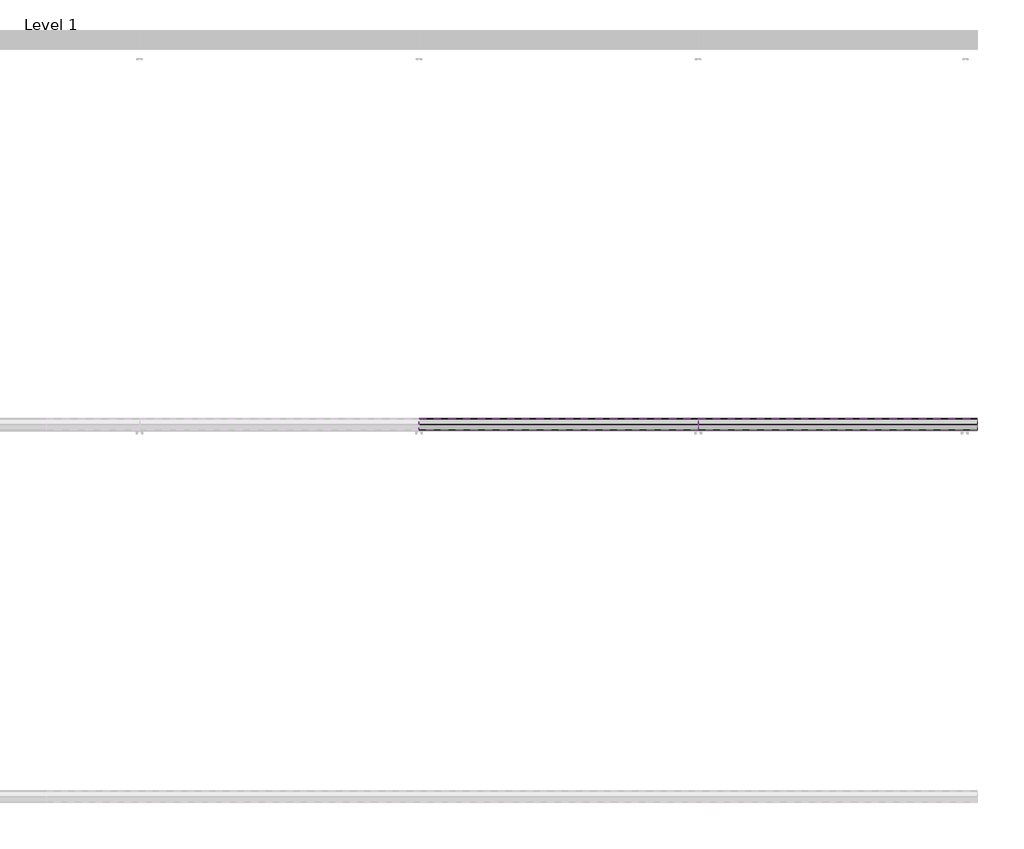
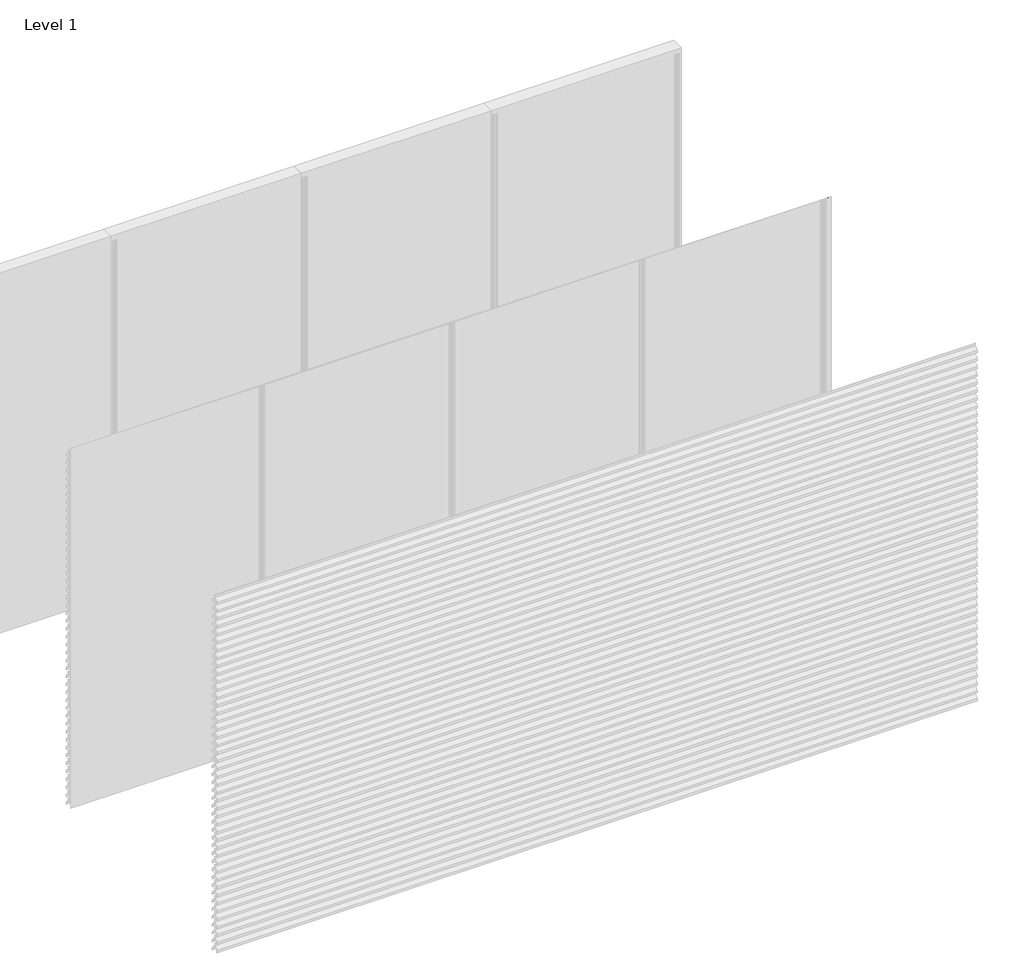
# One storey, part 31 of 35: 70 proxies.
"""IFC4 building model written with IfcOpenShell, lengths in millimetres."""

from ifc_helpers import new_model, si_unit, frame, origin, place, context, project, spatial, polyline, outline, extrude, element, save

model = new_model("IFC4")

# Units and contexts
model_context = context("Model", 3, world=origin())
ifc_project = project(units=[si_unit("LENGTHUNIT", "METRE", prefix="MILLI")], contexts=[model_context])

# Site, building, storey
site = spatial("IfcSite", under=ifc_project)
building = spatial("IfcBuilding", under=site)
storey = spatial("IfcBuildingStorey", under=building, Name="Level 1", Elevation=0.0)

# Proxies
placement = place(None, origin())
element("IfcBuildingElementProxy", 1, Name="Wall Sweeps", at=placement, inside=storey, context=model_context, shape_type="SweptSolid", body=[
    extrude(outline(polyline([(-5936.0, 1662.0), (-5936.0, 1642.0), (-5937.25, 1642.0), (-5937.25, 1661.4342979), (-5968.1138939, 1694.531772), (-5996.7, 1674.4392868), (-5996.7, 1655.6629874), (-5998.0, 1654.8506572), (-5998.0, 1675.1145472), (-5968.537525, 1695.823011), (-5968.537525, 1716.0), (-5967.1772624, 1716.0), (-5967.1772624, 1695.4335207), (-5936.0, 1662.0)])), frame((3000.0, 0.0, 0.0), z_axis=(1.0, 0.0, 0.0), x_axis=(0.0, 1.0, 0.0)), (0.0, 0.0, 1.0), 1500.0),
])
element("IfcBuildingElementProxy", 2, Name="Wall Sweeps", at=placement, inside=storey, context=model_context, shape_type="SweptSolid", body=[
    extrude(outline(polyline([(-5936.0, 1596.0), (-5936.0, 1576.0), (-5937.25, 1576.0), (-5937.25, 1595.4342979), (-5968.1138939, 1628.531772), (-5996.7, 1608.4392868), (-5996.7, 1589.6629874), (-5998.0, 1588.8506572), (-5998.0, 1609.1145472), (-5968.537525, 1629.823011), (-5968.537525, 1650.0), (-5967.1772624, 1650.0), (-5967.1772624, 1629.4335207), (-5936.0, 1596.0)])), frame((3000.0, 0.0, 0.0), z_axis=(1.0, 0.0, 0.0), x_axis=(0.0, 1.0, 0.0)), (0.0, 0.0, 1.0), 1500.0),
])
element("IfcBuildingElementProxy", 3, Name="Wall Sweeps", at=placement, inside=storey, context=model_context, shape_type="SweptSolid", body=[
    extrude(outline(polyline([(-5936.0, 1530.0), (-5936.0, 1510.0), (-5937.25, 1510.0), (-5937.25, 1529.4342979), (-5968.1138939, 1562.531772), (-5996.7, 1542.4392868), (-5996.7, 1523.6629874), (-5998.0, 1522.8506572), (-5998.0, 1543.1145472), (-5968.537525, 1563.823011), (-5968.537525, 1584.0), (-5967.1772624, 1584.0), (-5967.1772624, 1563.4335207), (-5936.0, 1530.0)])), frame((3000.0, 0.0, 0.0), z_axis=(1.0, 0.0, 0.0), x_axis=(0.0, 1.0, 0.0)), (0.0, 0.0, 1.0), 1500.0),
])
element("IfcBuildingElementProxy", 4, Name="Wall Sweeps", at=placement, inside=storey, context=model_context, shape_type="SweptSolid", body=[
    extrude(outline(polyline([(-5936.0, 1464.0), (-5936.0, 1444.0), (-5937.25, 1444.0), (-5937.25, 1463.4342979), (-5968.1138939, 1496.531772), (-5996.7, 1476.4392868), (-5996.7, 1457.6629874), (-5998.0, 1456.8506572), (-5998.0, 1477.1145472), (-5968.537525, 1497.823011), (-5968.537525, 1518.0), (-5967.1772624, 1518.0), (-5967.1772624, 1497.4335207), (-5936.0, 1464.0)])), frame((3000.0, 0.0, 0.0), z_axis=(1.0, 0.0, 0.0), x_axis=(0.0, 1.0, 0.0)), (0.0, 0.0, 1.0), 1500.0),
])
element("IfcBuildingElementProxy", 5, Name="Wall Sweeps", at=placement, inside=storey, context=model_context, shape_type="SweptSolid", body=[
    extrude(outline(polyline([(-5936.0, 1398.0), (-5936.0, 1378.0), (-5937.25, 1378.0), (-5937.25, 1397.4342979), (-5968.1138939, 1430.531772), (-5996.7, 1410.4392868), (-5996.7, 1391.6629874), (-5998.0, 1390.8506572), (-5998.0, 1411.1145472), (-5968.537525, 1431.823011), (-5968.537525, 1452.0), (-5967.1772624, 1452.0), (-5967.1772624, 1431.4335207), (-5936.0, 1398.0)])), frame((3000.0, 0.0, 0.0), z_axis=(1.0, 0.0, 0.0), x_axis=(0.0, 1.0, 0.0)), (0.0, 0.0, 1.0), 1500.0),
])
element("IfcBuildingElementProxy", 6, Name="Wall Sweeps", at=placement, inside=storey, context=model_context, shape_type="SweptSolid", body=[
    extrude(outline(polyline([(-5936.0, 1332.0), (-5936.0, 1312.0), (-5937.25, 1312.0), (-5937.25, 1331.4342979), (-5968.1138939, 1364.531772), (-5996.7, 1344.4392868), (-5996.7, 1325.6629874), (-5998.0, 1324.8506572), (-5998.0, 1345.1145472), (-5968.537525, 1365.823011), (-5968.537525, 1386.0), (-5967.1772624, 1386.0), (-5967.1772624, 1365.4335207), (-5936.0, 1332.0)])), frame((3000.0, 0.0, 0.0), z_axis=(1.0, 0.0, 0.0), x_axis=(0.0, 1.0, 0.0)), (0.0, 0.0, 1.0), 1500.0),
])
element("IfcBuildingElementProxy", 7, Name="Wall Sweeps", at=placement, inside=storey, context=model_context, shape_type="SweptSolid", body=[
    extrude(outline(polyline([(-5936.0, 1266.0), (-5936.0, 1246.0), (-5937.25, 1246.0), (-5937.25, 1265.4342979), (-5968.1138939, 1298.531772), (-5996.7, 1278.4392868), (-5996.7, 1259.6629874), (-5998.0, 1258.8506572), (-5998.0, 1279.1145472), (-5968.537525, 1299.823011), (-5968.537525, 1320.0), (-5967.1772624, 1320.0), (-5967.1772624, 1299.4335207), (-5936.0, 1266.0)])), frame((3000.0, 0.0, 0.0), z_axis=(1.0, 0.0, 0.0), x_axis=(0.0, 1.0, 0.0)), (0.0, 0.0, 1.0), 1500.0),
])
element("IfcBuildingElementProxy", 8, Name="Wall Sweeps", at=placement, inside=storey, context=model_context, shape_type="SweptSolid", body=[
    extrude(outline(polyline([(-5936.0, 1200.0), (-5936.0, 1180.0), (-5937.25, 1180.0), (-5937.25, 1199.4342979), (-5968.1138939, 1232.531772), (-5996.7, 1212.4392868), (-5996.7, 1193.6629874), (-5998.0, 1192.8506572), (-5998.0, 1213.1145472), (-5968.537525, 1233.823011), (-5968.537525, 1254.0), (-5967.1772624, 1254.0), (-5967.1772624, 1233.4335207), (-5936.0, 1200.0)])), frame((3000.0, 0.0, 0.0), z_axis=(1.0, 0.0, 0.0), x_axis=(0.0, 1.0, 0.0)), (0.0, 0.0, 1.0), 1500.0),
])
element("IfcBuildingElementProxy", 9, Name="Wall Sweeps", at=placement, inside=storey, context=model_context, shape_type="SweptSolid", body=[
    extrude(outline(polyline([(-5936.0, 1134.0), (-5936.0, 1114.0), (-5937.25, 1114.0), (-5937.25, 1133.4342979), (-5968.1138939, 1166.531772), (-5996.7, 1146.4392868), (-5996.7, 1127.6629874), (-5998.0, 1126.8506572), (-5998.0, 1147.1145472), (-5968.537525, 1167.823011), (-5968.537525, 1188.0), (-5967.1772624, 1188.0), (-5967.1772624, 1167.4335207), (-5936.0, 1134.0)])), frame((3000.0, 0.0, 0.0), z_axis=(1.0, 0.0, 0.0), x_axis=(0.0, 1.0, 0.0)), (0.0, 0.0, 1.0), 1500.0),
])
element("IfcBuildingElementProxy", 10, Name="Wall Sweeps", at=placement, inside=storey, context=model_context, shape_type="SweptSolid", body=[
    extrude(outline(polyline([(-5936.0, 1068.0), (-5936.0, 1048.0), (-5937.25, 1048.0), (-5937.25, 1067.4342979), (-5968.1138939, 1100.531772), (-5996.7, 1080.4392868), (-5996.7, 1061.6629874), (-5998.0, 1060.8506572), (-5998.0, 1081.1145472), (-5968.537525, 1101.823011), (-5968.537525, 1122.0), (-5967.1772624, 1122.0), (-5967.1772624, 1101.4335207), (-5936.0, 1068.0)])), frame((3000.0, 0.0, 0.0), z_axis=(1.0, 0.0, 0.0), x_axis=(0.0, 1.0, 0.0)), (0.0, 0.0, 1.0), 1500.0),
])
element("IfcBuildingElementProxy", 11, Name="Wall Sweeps", at=placement, inside=storey, context=model_context, shape_type="SweptSolid", body=[
    extrude(outline(polyline([(-5936.0, 1002.0), (-5936.0, 982.0), (-5937.25, 982.0), (-5937.25, 1001.4342979), (-5968.1138939, 1034.531772), (-5996.7, 1014.4392868), (-5996.7, 995.6629874), (-5998.0, 994.8506572), (-5998.0, 1015.1145472), (-5968.537525, 1035.823011), (-5968.537525, 1056.0), (-5967.1772624, 1056.0), (-5967.1772624, 1035.4335207), (-5936.0, 1002.0)])), frame((3000.0, 0.0, 0.0), z_axis=(1.0, 0.0, 0.0), x_axis=(0.0, 1.0, 0.0)), (0.0, 0.0, 1.0), 1500.0),
])
element("IfcBuildingElementProxy", 12, Name="Wall Sweeps", at=placement, inside=storey, context=model_context, shape_type="SweptSolid", body=[
    extrude(outline(polyline([(-5936.0, 936.0), (-5936.0, 916.0), (-5937.25, 916.0), (-5937.25, 935.4342979), (-5968.1138939, 968.531772), (-5996.7, 948.4392868), (-5996.7, 929.6629874), (-5998.0, 928.8506572), (-5998.0, 949.1145472), (-5968.537525, 969.823011), (-5968.537525, 990.0), (-5967.1772624, 990.0), (-5967.1772624, 969.4335207), (-5936.0, 936.0)])), frame((3000.0, 0.0, 0.0), z_axis=(1.0, 0.0, 0.0), x_axis=(0.0, 1.0, 0.0)), (0.0, 0.0, 1.0), 1500.0),
])
element("IfcBuildingElementProxy", 13, Name="Wall Sweeps", at=placement, inside=storey, context=model_context, shape_type="SweptSolid", body=[
    extrude(outline(polyline([(-5936.0, 870.0), (-5936.0, 850.0), (-5937.25, 850.0), (-5937.25, 869.4342979), (-5968.1138939, 902.531772), (-5996.7, 882.4392868), (-5996.7, 863.6629874), (-5998.0, 862.8506572), (-5998.0, 883.1145472), (-5968.537525, 903.823011), (-5968.537525, 924.0), (-5967.1772624, 924.0), (-5967.1772624, 903.4335207), (-5936.0, 870.0)])), frame((3000.0, 0.0, 0.0), z_axis=(1.0, 0.0, 0.0), x_axis=(0.0, 1.0, 0.0)), (0.0, 0.0, 1.0), 1500.0),
])
element("IfcBuildingElementProxy", 14, Name="Wall Sweeps", at=placement, inside=storey, context=model_context, shape_type="SweptSolid", body=[
    extrude(outline(polyline([(-5936.0, 804.0), (-5936.0, 784.0), (-5937.25, 784.0), (-5937.25, 803.4342979), (-5968.1138939, 836.531772), (-5996.7, 816.4392868), (-5996.7, 797.6629874), (-5998.0, 796.8506572), (-5998.0, 817.1145472), (-5968.537525, 837.823011), (-5968.537525, 858.0), (-5967.1772624, 858.0), (-5967.1772624, 837.4335207), (-5936.0, 804.0)])), frame((3000.0, 0.0, 0.0), z_axis=(1.0, 0.0, 0.0), x_axis=(0.0, 1.0, 0.0)), (0.0, 0.0, 1.0), 1500.0),
])
element("IfcBuildingElementProxy", 15, Name="Wall Sweeps", at=placement, inside=storey, context=model_context, shape_type="SweptSolid", body=[
    extrude(outline(polyline([(-5936.0, 738.0), (-5936.0, 718.0), (-5937.25, 718.0), (-5937.25, 737.4342979), (-5968.1138939, 770.531772), (-5996.7, 750.4392868), (-5996.7, 731.6629874), (-5998.0, 730.8506572), (-5998.0, 751.1145472), (-5968.537525, 771.823011), (-5968.537525, 792.0), (-5967.1772624, 792.0), (-5967.1772624, 771.4335207), (-5936.0, 738.0)])), frame((3000.0, 0.0, 0.0), z_axis=(1.0, 0.0, 0.0), x_axis=(0.0, 1.0, 0.0)), (0.0, 0.0, 1.0), 1500.0),
])
element("IfcBuildingElementProxy", 16, Name="Wall Sweeps", at=placement, inside=storey, context=model_context, shape_type="SweptSolid", body=[
    extrude(outline(polyline([(-5936.0, 672.0), (-5936.0, 652.0), (-5937.25, 652.0), (-5937.25, 671.4342979), (-5968.1138939, 704.531772), (-5996.7, 684.4392868), (-5996.7, 665.6629874), (-5998.0, 664.8506572), (-5998.0, 685.1145472), (-5968.537525, 705.823011), (-5968.537525, 726.0), (-5967.1772624, 726.0), (-5967.1772624, 705.4335207), (-5936.0, 672.0)])), frame((3000.0, 0.0, 0.0), z_axis=(1.0, 0.0, 0.0), x_axis=(0.0, 1.0, 0.0)), (0.0, 0.0, 1.0), 1500.0),
])
element("IfcBuildingElementProxy", 17, Name="Wall Sweeps", at=placement, inside=storey, context=model_context, shape_type="SweptSolid", body=[
    extrude(outline(polyline([(-5936.0, 606.0), (-5936.0, 586.0), (-5937.25, 586.0), (-5937.25, 605.4342979), (-5968.1138939, 638.531772), (-5996.7, 618.4392868), (-5996.7, 599.6629874), (-5998.0, 598.8506572), (-5998.0, 619.1145472), (-5968.537525, 639.823011), (-5968.537525, 660.0), (-5967.1772624, 660.0), (-5967.1772624, 639.4335207), (-5936.0, 606.0)])), frame((3000.0, 0.0, 0.0), z_axis=(1.0, 0.0, 0.0), x_axis=(0.0, 1.0, 0.0)), (0.0, 0.0, 1.0), 1500.0),
])
element("IfcBuildingElementProxy", 18, Name="Wall Sweeps", at=placement, inside=storey, context=model_context, shape_type="SweptSolid", body=[
    extrude(outline(polyline([(-5936.0, 540.0), (-5936.0, 520.0), (-5937.25, 520.0), (-5937.25, 539.4342979), (-5968.1138939, 572.531772), (-5996.7, 552.4392868), (-5996.7, 533.6629874), (-5998.0, 532.8506572), (-5998.0, 553.1145472), (-5968.537525, 573.823011), (-5968.537525, 594.0), (-5967.1772624, 594.0), (-5967.1772624, 573.4335207), (-5936.0, 540.0)])), frame((3000.0, 0.0, 0.0), z_axis=(1.0, 0.0, 0.0), x_axis=(0.0, 1.0, 0.0)), (0.0, 0.0, 1.0), 1500.0),
])
element("IfcBuildingElementProxy", 19, Name="Wall Sweeps", at=placement, inside=storey, context=model_context, shape_type="SweptSolid", body=[
    extrude(outline(polyline([(-5936.0, 474.0), (-5936.0, 454.0), (-5937.25, 454.0), (-5937.25, 473.4342979), (-5968.1138939, 506.531772), (-5996.7, 486.4392868), (-5996.7, 467.6629874), (-5998.0, 466.8506572), (-5998.0, 487.1145472), (-5968.537525, 507.823011), (-5968.537525, 528.0), (-5967.1772624, 528.0), (-5967.1772624, 507.4335207), (-5936.0, 474.0)])), frame((3000.0, 0.0, 0.0), z_axis=(1.0, 0.0, 0.0), x_axis=(0.0, 1.0, 0.0)), (0.0, 0.0, 1.0), 1500.0),
])
element("IfcBuildingElementProxy", 20, Name="Wall Sweeps", at=placement, inside=storey, context=model_context, shape_type="SweptSolid", body=[
    extrude(outline(polyline([(-5936.0, 408.0), (-5936.0, 388.0), (-5937.25, 388.0), (-5937.25, 407.4342979), (-5968.1138939, 440.531772), (-5996.7, 420.4392868), (-5996.7, 401.6629874), (-5998.0, 400.8506572), (-5998.0, 421.1145472), (-5968.537525, 441.823011), (-5968.537525, 462.0), (-5967.1772624, 462.0), (-5967.1772624, 441.4335207), (-5936.0, 408.0)])), frame((3000.0, 0.0, 0.0), z_axis=(1.0, 0.0, 0.0), x_axis=(0.0, 1.0, 0.0)), (0.0, 0.0, 1.0), 1500.0),
])
element("IfcBuildingElementProxy", 21, Name="Wall Sweeps", at=placement, inside=storey, context=model_context, shape_type="SweptSolid", body=[
    extrude(outline(polyline([(-5936.0, 342.0), (-5936.0, 322.0), (-5937.25, 322.0), (-5937.25, 341.4342979), (-5968.1138939, 374.531772), (-5996.7, 354.4392868), (-5996.7, 335.6629874), (-5998.0, 334.8506572), (-5998.0, 355.1145472), (-5968.537525, 375.823011), (-5968.537525, 396.0), (-5967.1772624, 396.0), (-5967.1772624, 375.4335207), (-5936.0, 342.0)])), frame((3000.0, 0.0, 0.0), z_axis=(1.0, 0.0, 0.0), x_axis=(0.0, 1.0, 0.0)), (0.0, 0.0, 1.0), 1500.0),
])
element("IfcBuildingElementProxy", 22, Name="Wall Sweeps", at=placement, inside=storey, context=model_context, shape_type="SweptSolid", body=[
    extrude(outline(polyline([(-5936.0, 276.0), (-5936.0, 256.0), (-5937.25, 256.0), (-5937.25, 275.4342979), (-5968.1138939, 308.531772), (-5996.7, 288.4392868), (-5996.7, 269.6629874), (-5998.0, 268.8506572), (-5998.0, 289.1145472), (-5968.537525, 309.823011), (-5968.537525, 330.0), (-5967.1772624, 330.0), (-5967.1772624, 309.4335207), (-5936.0, 276.0)])), frame((3000.0, 0.0, 0.0), z_axis=(1.0, 0.0, 0.0), x_axis=(0.0, 1.0, 0.0)), (0.0, 0.0, 1.0), 1500.0),
])
element("IfcBuildingElementProxy", 23, Name="Wall Sweeps", at=placement, inside=storey, context=model_context, shape_type="SweptSolid", body=[
    extrude(outline(polyline([(-5936.0, 210.0), (-5936.0, 190.0), (-5937.25, 190.0), (-5937.25, 209.4342979), (-5968.1138939, 242.531772), (-5996.7, 222.4392868), (-5996.7, 203.6629874), (-5998.0, 202.8506572), (-5998.0, 223.1145472), (-5968.537525, 243.823011), (-5968.537525, 264.0), (-5967.1772624, 264.0), (-5967.1772624, 243.4335207), (-5936.0, 210.0)])), frame((3000.0, 0.0, 0.0), z_axis=(1.0, 0.0, 0.0), x_axis=(0.0, 1.0, 0.0)), (0.0, 0.0, 1.0), 1500.0),
])
element("IfcBuildingElementProxy", 24, Name="Wall Sweeps", at=placement, inside=storey, context=model_context, shape_type="SweptSolid", body=[
    extrude(outline(polyline([(-5936.0, 144.0), (-5936.0, 124.0), (-5937.25, 124.0), (-5937.25, 143.4342979), (-5968.1138939, 176.531772), (-5996.7, 156.4392868), (-5996.7, 137.6629874), (-5998.0, 136.8506572), (-5998.0, 157.1145472), (-5968.537525, 177.823011), (-5968.537525, 198.0), (-5967.1772624, 198.0), (-5967.1772624, 177.4335207), (-5936.0, 144.0)])), frame((3000.0, 0.0, 0.0), z_axis=(1.0, 0.0, 0.0), x_axis=(0.0, 1.0, 0.0)), (0.0, 0.0, 1.0), 1500.0),
])
element("IfcBuildingElementProxy", 25, Name="Wall Sweeps", at=placement, inside=storey, context=model_context, shape_type="SweptSolid", body=[
    extrude(outline(polyline([(-5936.0, 78.0), (-5936.0, 58.0), (-5937.25, 58.0), (-5937.25, 77.4342979), (-5968.1138939, 110.531772), (-5996.7, 90.4392868), (-5996.7, 71.6629874), (-5998.0, 70.8506572), (-5998.0, 91.1145472), (-5968.537525, 111.823011), (-5968.537525, 132.0), (-5967.1772624, 132.0), (-5967.1772624, 111.4335207), (-5936.0, 78.0)])), frame((3000.0, 0.0, 0.0), z_axis=(1.0, 0.0, 0.0), x_axis=(0.0, 1.0, 0.0)), (0.0, 0.0, 1.0), 1500.0),
])
element("IfcBuildingElementProxy", 26, Name="Wall Sweeps", at=placement, inside=storey, context=model_context, shape_type="SweptSolid", body=[
    extrude(outline(polyline([(-5936.0, 12.0), (-5936.0, -8.0), (-5937.25, -8.0), (-5937.25, 11.4342979), (-5968.1138939, 44.531772), (-5996.7, 24.4392868), (-5996.7, 5.6629874), (-5998.0, 4.8506572), (-5998.0, 25.1145472), (-5968.537525, 45.823011), (-5968.537525, 66.0), (-5967.1772624, 66.0), (-5967.1772624, 45.4335207), (-5936.0, 12.0)])), frame((3000.0, 0.0, 0.0), z_axis=(1.0, 0.0, 0.0), x_axis=(0.0, 1.0, 0.0)), (0.0, 0.0, 1.0), 1500.0),
])
element("IfcBuildingElementProxy", 27, Name="Wall Sweeps", at=placement, inside=storey, context=model_context, shape_type="SweptSolid", body=[
    extrude(outline(polyline([(-5936.0, 2916.0), (-5936.0, 2896.0), (-5937.25, 2896.0), (-5937.25, 2915.4342979), (-5968.1138939, 2948.531772), (-5996.7, 2928.4392868), (-5996.7, 2909.6629874), (-5998.0, 2908.8506572), (-5998.0, 2929.1145472), (-5968.537525, 2949.823011), (-5968.537525, 2970.0), (-5967.1772624, 2970.0), (-5967.1772624, 2949.4335207), (-5936.0, 2916.0)])), frame((4500.0, 0.0, 0.0), z_axis=(1.0, 0.0, 0.0), x_axis=(0.0, 1.0, 0.0)), (0.0, 0.0, 1.0), 1500.0),
])
element("IfcBuildingElementProxy", 28, Name="Wall Sweeps", at=placement, inside=storey, context=model_context, shape_type="SweptSolid", body=[
    extrude(outline(polyline([(-5936.0, 2850.0), (-5936.0, 2830.0), (-5937.25, 2830.0), (-5937.25, 2849.4342979), (-5968.1138939, 2882.531772), (-5996.7, 2862.4392868), (-5996.7, 2843.6629874), (-5998.0, 2842.8506572), (-5998.0, 2863.1145472), (-5968.537525, 2883.823011), (-5968.537525, 2904.0), (-5967.1772624, 2904.0), (-5967.1772624, 2883.4335207), (-5936.0, 2850.0)])), frame((4500.0, 0.0, 0.0), z_axis=(1.0, 0.0, 0.0), x_axis=(0.0, 1.0, 0.0)), (0.0, 0.0, 1.0), 1500.0),
])
element("IfcBuildingElementProxy", 29, Name="Wall Sweeps", at=placement, inside=storey, context=model_context, shape_type="SweptSolid", body=[
    extrude(outline(polyline([(-5936.0, 2784.0), (-5936.0, 2764.0), (-5937.25, 2764.0), (-5937.25, 2783.4342979), (-5968.1138939, 2816.531772), (-5996.7, 2796.4392868), (-5996.7, 2777.6629874), (-5998.0, 2776.8506572), (-5998.0, 2797.1145472), (-5968.537525, 2817.823011), (-5968.537525, 2838.0), (-5967.1772624, 2838.0), (-5967.1772624, 2817.4335207), (-5936.0, 2784.0)])), frame((4500.0, 0.0, 0.0), z_axis=(1.0, 0.0, 0.0), x_axis=(0.0, 1.0, 0.0)), (0.0, 0.0, 1.0), 1500.0),
])
element("IfcBuildingElementProxy", 30, Name="Wall Sweeps", at=placement, inside=storey, context=model_context, shape_type="SweptSolid", body=[
    extrude(outline(polyline([(-5936.0, 2718.0), (-5936.0, 2698.0), (-5937.25, 2698.0), (-5937.25, 2717.4342979), (-5968.1138939, 2750.531772), (-5996.7, 2730.4392868), (-5996.7, 2711.6629874), (-5998.0, 2710.8506572), (-5998.0, 2731.1145472), (-5968.537525, 2751.823011), (-5968.537525, 2772.0), (-5967.1772624, 2772.0), (-5967.1772624, 2751.4335207), (-5936.0, 2718.0)])), frame((4500.0, 0.0, 0.0), z_axis=(1.0, 0.0, 0.0), x_axis=(0.0, 1.0, 0.0)), (0.0, 0.0, 1.0), 1500.0),
])
element("IfcBuildingElementProxy", 31, Name="Wall Sweeps", at=placement, inside=storey, context=model_context, shape_type="SweptSolid", body=[
    extrude(outline(polyline([(-5936.0, 2652.0), (-5936.0, 2632.0), (-5937.25, 2632.0), (-5937.25, 2651.4342979), (-5968.1138939, 2684.531772), (-5996.7, 2664.4392868), (-5996.7, 2645.6629874), (-5998.0, 2644.8506572), (-5998.0, 2665.1145472), (-5968.537525, 2685.823011), (-5968.537525, 2706.0), (-5967.1772624, 2706.0), (-5967.1772624, 2685.4335207), (-5936.0, 2652.0)])), frame((4500.0, 0.0, 0.0), z_axis=(1.0, 0.0, 0.0), x_axis=(0.0, 1.0, 0.0)), (0.0, 0.0, 1.0), 1500.0),
])
element("IfcBuildingElementProxy", 32, Name="Wall Sweeps", at=placement, inside=storey, context=model_context, shape_type="SweptSolid", body=[
    extrude(outline(polyline([(-5936.0, 2586.0), (-5936.0, 2566.0), (-5937.25, 2566.0), (-5937.25, 2585.4342979), (-5968.1138939, 2618.531772), (-5996.7, 2598.4392868), (-5996.7, 2579.6629874), (-5998.0, 2578.8506572), (-5998.0, 2599.1145472), (-5968.537525, 2619.823011), (-5968.537525, 2640.0), (-5967.1772624, 2640.0), (-5967.1772624, 2619.4335207), (-5936.0, 2586.0)])), frame((4500.0, 0.0, 0.0), z_axis=(1.0, 0.0, 0.0), x_axis=(0.0, 1.0, 0.0)), (0.0, 0.0, 1.0), 1500.0),
])
element("IfcBuildingElementProxy", 33, Name="Wall Sweeps", at=placement, inside=storey, context=model_context, shape_type="SweptSolid", body=[
    extrude(outline(polyline([(-5936.0, 2520.0), (-5936.0, 2500.0), (-5937.25, 2500.0), (-5937.25, 2519.4342979), (-5968.1138939, 2552.531772), (-5996.7, 2532.4392868), (-5996.7, 2513.6629874), (-5998.0, 2512.8506572), (-5998.0, 2533.1145472), (-5968.537525, 2553.823011), (-5968.537525, 2574.0), (-5967.1772624, 2574.0), (-5967.1772624, 2553.4335207), (-5936.0, 2520.0)])), frame((4500.0, 0.0, 0.0), z_axis=(1.0, 0.0, 0.0), x_axis=(0.0, 1.0, 0.0)), (0.0, 0.0, 1.0), 1500.0),
])
element("IfcBuildingElementProxy", 34, Name="Wall Sweeps", at=placement, inside=storey, context=model_context, shape_type="SweptSolid", body=[
    extrude(outline(polyline([(-5936.0, 2454.0), (-5936.0, 2434.0), (-5937.25, 2434.0), (-5937.25, 2453.4342979), (-5968.1138939, 2486.531772), (-5996.7, 2466.4392868), (-5996.7, 2447.6629874), (-5998.0, 2446.8506572), (-5998.0, 2467.1145472), (-5968.537525, 2487.823011), (-5968.537525, 2508.0), (-5967.1772624, 2508.0), (-5967.1772624, 2487.4335207), (-5936.0, 2454.0)])), frame((4500.0, 0.0, 0.0), z_axis=(1.0, 0.0, 0.0), x_axis=(0.0, 1.0, 0.0)), (0.0, 0.0, 1.0), 1500.0),
])
element("IfcBuildingElementProxy", 35, Name="Wall Sweeps", at=placement, inside=storey, context=model_context, shape_type="SweptSolid", body=[
    extrude(outline(polyline([(-5936.0, 2388.0), (-5936.0, 2368.0), (-5937.25, 2368.0), (-5937.25, 2387.4342979), (-5968.1138939, 2420.531772), (-5996.7, 2400.4392868), (-5996.7, 2381.6629874), (-5998.0, 2380.8506572), (-5998.0, 2401.1145472), (-5968.537525, 2421.823011), (-5968.537525, 2442.0), (-5967.1772624, 2442.0), (-5967.1772624, 2421.4335207), (-5936.0, 2388.0)])), frame((4500.0, 0.0, 0.0), z_axis=(1.0, 0.0, 0.0), x_axis=(0.0, 1.0, 0.0)), (0.0, 0.0, 1.0), 1500.0),
])
element("IfcBuildingElementProxy", 36, Name="Wall Sweeps", at=placement, inside=storey, context=model_context, shape_type="SweptSolid", body=[
    extrude(outline(polyline([(-5936.0, 2322.0), (-5936.0, 2302.0), (-5937.25, 2302.0), (-5937.25, 2321.4342979), (-5968.1138939, 2354.531772), (-5996.7, 2334.4392868), (-5996.7, 2315.6629874), (-5998.0, 2314.8506572), (-5998.0, 2335.1145472), (-5968.537525, 2355.823011), (-5968.537525, 2376.0), (-5967.1772624, 2376.0), (-5967.1772624, 2355.4335207), (-5936.0, 2322.0)])), frame((4500.0, 0.0, 0.0), z_axis=(1.0, 0.0, 0.0), x_axis=(0.0, 1.0, 0.0)), (0.0, 0.0, 1.0), 1500.0),
])
element("IfcBuildingElementProxy", 37, Name="Wall Sweeps", at=placement, inside=storey, context=model_context, shape_type="SweptSolid", body=[
    extrude(outline(polyline([(-5936.0, 2256.0), (-5936.0, 2236.0), (-5937.25, 2236.0), (-5937.25, 2255.4342979), (-5968.1138939, 2288.531772), (-5996.7, 2268.4392868), (-5996.7, 2249.6629874), (-5998.0, 2248.8506572), (-5998.0, 2269.1145472), (-5968.537525, 2289.823011), (-5968.537525, 2310.0), (-5967.1772624, 2310.0), (-5967.1772624, 2289.4335207), (-5936.0, 2256.0)])), frame((4500.0, 0.0, 0.0), z_axis=(1.0, 0.0, 0.0), x_axis=(0.0, 1.0, 0.0)), (0.0, 0.0, 1.0), 1500.0),
])
element("IfcBuildingElementProxy", 38, Name="Wall Sweeps", at=placement, inside=storey, context=model_context, shape_type="SweptSolid", body=[
    extrude(outline(polyline([(-5936.0, 2190.0), (-5936.0, 2170.0), (-5937.25, 2170.0), (-5937.25, 2189.4342979), (-5968.1138939, 2222.531772), (-5996.7, 2202.4392868), (-5996.7, 2183.6629874), (-5998.0, 2182.8506572), (-5998.0, 2203.1145472), (-5968.537525, 2223.823011), (-5968.537525, 2244.0), (-5967.1772624, 2244.0), (-5967.1772624, 2223.4335207), (-5936.0, 2190.0)])), frame((4500.0, 0.0, 0.0), z_axis=(1.0, 0.0, 0.0), x_axis=(0.0, 1.0, 0.0)), (0.0, 0.0, 1.0), 1500.0),
])
element("IfcBuildingElementProxy", 39, Name="Wall Sweeps", at=placement, inside=storey, context=model_context, shape_type="SweptSolid", body=[
    extrude(outline(polyline([(-5936.0, 2124.0), (-5936.0, 2104.0), (-5937.25, 2104.0), (-5937.25, 2123.4342979), (-5968.1138939, 2156.531772), (-5996.7, 2136.4392868), (-5996.7, 2117.6629874), (-5998.0, 2116.8506572), (-5998.0, 2137.1145472), (-5968.537525, 2157.823011), (-5968.537525, 2178.0), (-5967.1772624, 2178.0), (-5967.1772624, 2157.4335207), (-5936.0, 2124.0)])), frame((4500.0, 0.0, 0.0), z_axis=(1.0, 0.0, 0.0), x_axis=(0.0, 1.0, 0.0)), (0.0, 0.0, 1.0), 1500.0),
])
element("IfcBuildingElementProxy", 40, Name="Wall Sweeps", at=placement, inside=storey, context=model_context, shape_type="SweptSolid", body=[
    extrude(outline(polyline([(-5936.0, 2058.0), (-5936.0, 2038.0), (-5937.25, 2038.0), (-5937.25, 2057.4342979), (-5968.1138939, 2090.531772), (-5996.7, 2070.4392868), (-5996.7, 2051.6629874), (-5998.0, 2050.8506572), (-5998.0, 2071.1145472), (-5968.537525, 2091.823011), (-5968.537525, 2112.0), (-5967.1772624, 2112.0), (-5967.1772624, 2091.4335207), (-5936.0, 2058.0)])), frame((4500.0, 0.0, 0.0), z_axis=(1.0, 0.0, 0.0), x_axis=(0.0, 1.0, 0.0)), (0.0, 0.0, 1.0), 1500.0),
])
element("IfcBuildingElementProxy", 41, Name="Wall Sweeps", at=placement, inside=storey, context=model_context, shape_type="SweptSolid", body=[
    extrude(outline(polyline([(-5936.0, 1992.0), (-5936.0, 1972.0), (-5937.25, 1972.0), (-5937.25, 1991.4342979), (-5968.1138939, 2024.531772), (-5996.7, 2004.4392868), (-5996.7, 1985.6629874), (-5998.0, 1984.8506572), (-5998.0, 2005.1145472), (-5968.537525, 2025.823011), (-5968.537525, 2046.0), (-5967.1772624, 2046.0), (-5967.1772624, 2025.4335207), (-5936.0, 1992.0)])), frame((4500.0, 0.0, 0.0), z_axis=(1.0, 0.0, 0.0), x_axis=(0.0, 1.0, 0.0)), (0.0, 0.0, 1.0), 1500.0),
])
element("IfcBuildingElementProxy", 42, Name="Wall Sweeps", at=placement, inside=storey, context=model_context, shape_type="SweptSolid", body=[
    extrude(outline(polyline([(-5936.0, 1926.0), (-5936.0, 1906.0), (-5937.25, 1906.0), (-5937.25, 1925.4342979), (-5968.1138939, 1958.531772), (-5996.7, 1938.4392868), (-5996.7, 1919.6629874), (-5998.0, 1918.8506572), (-5998.0, 1939.1145472), (-5968.537525, 1959.823011), (-5968.537525, 1980.0), (-5967.1772624, 1980.0), (-5967.1772624, 1959.4335207), (-5936.0, 1926.0)])), frame((4500.0, 0.0, 0.0), z_axis=(1.0, 0.0, 0.0), x_axis=(0.0, 1.0, 0.0)), (0.0, 0.0, 1.0), 1500.0),
])
element("IfcBuildingElementProxy", 43, Name="Wall Sweeps", at=placement, inside=storey, context=model_context, shape_type="SweptSolid", body=[
    extrude(outline(polyline([(-5936.0, 1860.0), (-5936.0, 1840.0), (-5937.25, 1840.0), (-5937.25, 1859.4342979), (-5968.1138939, 1892.531772), (-5996.7, 1872.4392868), (-5996.7, 1853.6629874), (-5998.0, 1852.8506572), (-5998.0, 1873.1145472), (-5968.537525, 1893.823011), (-5968.537525, 1914.0), (-5967.1772624, 1914.0), (-5967.1772624, 1893.4335207), (-5936.0, 1860.0)])), frame((4500.0, 0.0, 0.0), z_axis=(1.0, 0.0, 0.0), x_axis=(0.0, 1.0, 0.0)), (0.0, 0.0, 1.0), 1500.0),
])
element("IfcBuildingElementProxy", 44, Name="Wall Sweeps", at=placement, inside=storey, context=model_context, shape_type="SweptSolid", body=[
    extrude(outline(polyline([(-5936.0, 1794.0), (-5936.0, 1774.0), (-5937.25, 1774.0), (-5937.25, 1793.4342979), (-5968.1138939, 1826.531772), (-5996.7, 1806.4392868), (-5996.7, 1787.6629874), (-5998.0, 1786.8506572), (-5998.0, 1807.1145472), (-5968.537525, 1827.823011), (-5968.537525, 1848.0), (-5967.1772624, 1848.0), (-5967.1772624, 1827.4335207), (-5936.0, 1794.0)])), frame((4500.0, 0.0, 0.0), z_axis=(1.0, 0.0, 0.0), x_axis=(0.0, 1.0, 0.0)), (0.0, 0.0, 1.0), 1500.0),
])
element("IfcBuildingElementProxy", 45, Name="Wall Sweeps", at=placement, inside=storey, context=model_context, shape_type="SweptSolid", body=[
    extrude(outline(polyline([(-5936.0, 1728.0), (-5936.0, 1708.0), (-5937.25, 1708.0), (-5937.25, 1727.4342979), (-5968.1138939, 1760.531772), (-5996.7, 1740.4392868), (-5996.7, 1721.6629874), (-5998.0, 1720.8506572), (-5998.0, 1741.1145472), (-5968.537525, 1761.823011), (-5968.537525, 1782.0), (-5967.1772624, 1782.0), (-5967.1772624, 1761.4335207), (-5936.0, 1728.0)])), frame((4500.0, 0.0, 0.0), z_axis=(1.0, 0.0, 0.0), x_axis=(0.0, 1.0, 0.0)), (0.0, 0.0, 1.0), 1500.0),
])
element("IfcBuildingElementProxy", 46, Name="Wall Sweeps", at=placement, inside=storey, context=model_context, shape_type="SweptSolid", body=[
    extrude(outline(polyline([(-5936.0, 1662.0), (-5936.0, 1642.0), (-5937.25, 1642.0), (-5937.25, 1661.4342979), (-5968.1138939, 1694.531772), (-5996.7, 1674.4392868), (-5996.7, 1655.6629874), (-5998.0, 1654.8506572), (-5998.0, 1675.1145472), (-5968.537525, 1695.823011), (-5968.537525, 1716.0), (-5967.1772624, 1716.0), (-5967.1772624, 1695.4335207), (-5936.0, 1662.0)])), frame((4500.0, 0.0, 0.0), z_axis=(1.0, 0.0, 0.0), x_axis=(0.0, 1.0, 0.0)), (0.0, 0.0, 1.0), 1500.0),
])
element("IfcBuildingElementProxy", 47, Name="Wall Sweeps", at=placement, inside=storey, context=model_context, shape_type="SweptSolid", body=[
    extrude(outline(polyline([(-5936.0, 1596.0), (-5936.0, 1576.0), (-5937.25, 1576.0), (-5937.25, 1595.4342979), (-5968.1138939, 1628.531772), (-5996.7, 1608.4392868), (-5996.7, 1589.6629874), (-5998.0, 1588.8506572), (-5998.0, 1609.1145472), (-5968.537525, 1629.823011), (-5968.537525, 1650.0), (-5967.1772624, 1650.0), (-5967.1772624, 1629.4335207), (-5936.0, 1596.0)])), frame((4500.0, 0.0, 0.0), z_axis=(1.0, 0.0, 0.0), x_axis=(0.0, 1.0, 0.0)), (0.0, 0.0, 1.0), 1500.0),
])
element("IfcBuildingElementProxy", 48, Name="Wall Sweeps", at=placement, inside=storey, context=model_context, shape_type="SweptSolid", body=[
    extrude(outline(polyline([(-5936.0, 1530.0), (-5936.0, 1510.0), (-5937.25, 1510.0), (-5937.25, 1529.4342979), (-5968.1138939, 1562.531772), (-5996.7, 1542.4392868), (-5996.7, 1523.6629874), (-5998.0, 1522.8506572), (-5998.0, 1543.1145472), (-5968.537525, 1563.823011), (-5968.537525, 1584.0), (-5967.1772624, 1584.0), (-5967.1772624, 1563.4335207), (-5936.0, 1530.0)])), frame((4500.0, 0.0, 0.0), z_axis=(1.0, 0.0, 0.0), x_axis=(0.0, 1.0, 0.0)), (0.0, 0.0, 1.0), 1500.0),
])
element("IfcBuildingElementProxy", 49, Name="Wall Sweeps", at=placement, inside=storey, context=model_context, shape_type="SweptSolid", body=[
    extrude(outline(polyline([(-5936.0, 1464.0), (-5936.0, 1444.0), (-5937.25, 1444.0), (-5937.25, 1463.4342979), (-5968.1138939, 1496.531772), (-5996.7, 1476.4392868), (-5996.7, 1457.6629874), (-5998.0, 1456.8506572), (-5998.0, 1477.1145472), (-5968.537525, 1497.823011), (-5968.537525, 1518.0), (-5967.1772624, 1518.0), (-5967.1772624, 1497.4335207), (-5936.0, 1464.0)])), frame((4500.0, 0.0, 0.0), z_axis=(1.0, 0.0, 0.0), x_axis=(0.0, 1.0, 0.0)), (0.0, 0.0, 1.0), 1500.0),
])
element("IfcBuildingElementProxy", 50, Name="Wall Sweeps", at=placement, inside=storey, context=model_context, shape_type="SweptSolid", body=[
    extrude(outline(polyline([(-5936.0, 1398.0), (-5936.0, 1378.0), (-5937.25, 1378.0), (-5937.25, 1397.4342979), (-5968.1138939, 1430.531772), (-5996.7, 1410.4392868), (-5996.7, 1391.6629874), (-5998.0, 1390.8506572), (-5998.0, 1411.1145472), (-5968.537525, 1431.823011), (-5968.537525, 1452.0), (-5967.1772624, 1452.0), (-5967.1772624, 1431.4335207), (-5936.0, 1398.0)])), frame((4500.0, 0.0, 0.0), z_axis=(1.0, 0.0, 0.0), x_axis=(0.0, 1.0, 0.0)), (0.0, 0.0, 1.0), 1500.0),
])
element("IfcBuildingElementProxy", 51, Name="Wall Sweeps", at=placement, inside=storey, context=model_context, shape_type="SweptSolid", body=[
    extrude(outline(polyline([(-5936.0, 1332.0), (-5936.0, 1312.0), (-5937.25, 1312.0), (-5937.25, 1331.4342979), (-5968.1138939, 1364.531772), (-5996.7, 1344.4392868), (-5996.7, 1325.6629874), (-5998.0, 1324.8506572), (-5998.0, 1345.1145472), (-5968.537525, 1365.823011), (-5968.537525, 1386.0), (-5967.1772624, 1386.0), (-5967.1772624, 1365.4335207), (-5936.0, 1332.0)])), frame((4500.0, 0.0, 0.0), z_axis=(1.0, 0.0, 0.0), x_axis=(0.0, 1.0, 0.0)), (0.0, 0.0, 1.0), 1500.0),
])
element("IfcBuildingElementProxy", 52, Name="Wall Sweeps", at=placement, inside=storey, context=model_context, shape_type="SweptSolid", body=[
    extrude(outline(polyline([(-5936.0, 1266.0), (-5936.0, 1246.0), (-5937.25, 1246.0), (-5937.25, 1265.4342979), (-5968.1138939, 1298.531772), (-5996.7, 1278.4392868), (-5996.7, 1259.6629874), (-5998.0, 1258.8506572), (-5998.0, 1279.1145472), (-5968.537525, 1299.823011), (-5968.537525, 1320.0), (-5967.1772624, 1320.0), (-5967.1772624, 1299.4335207), (-5936.0, 1266.0)])), frame((4500.0, 0.0, 0.0), z_axis=(1.0, 0.0, 0.0), x_axis=(0.0, 1.0, 0.0)), (0.0, 0.0, 1.0), 1500.0),
])
element("IfcBuildingElementProxy", 53, Name="Wall Sweeps", at=placement, inside=storey, context=model_context, shape_type="SweptSolid", body=[
    extrude(outline(polyline([(-5936.0, 1200.0), (-5936.0, 1180.0), (-5937.25, 1180.0), (-5937.25, 1199.4342979), (-5968.1138939, 1232.531772), (-5996.7, 1212.4392868), (-5996.7, 1193.6629874), (-5998.0, 1192.8506572), (-5998.0, 1213.1145472), (-5968.537525, 1233.823011), (-5968.537525, 1254.0), (-5967.1772624, 1254.0), (-5967.1772624, 1233.4335207), (-5936.0, 1200.0)])), frame((4500.0, 0.0, 0.0), z_axis=(1.0, 0.0, 0.0), x_axis=(0.0, 1.0, 0.0)), (0.0, 0.0, 1.0), 1500.0),
])
element("IfcBuildingElementProxy", 54, Name="Wall Sweeps", at=placement, inside=storey, context=model_context, shape_type="SweptSolid", body=[
    extrude(outline(polyline([(-5936.0, 1134.0), (-5936.0, 1114.0), (-5937.25, 1114.0), (-5937.25, 1133.4342979), (-5968.1138939, 1166.531772), (-5996.7, 1146.4392868), (-5996.7, 1127.6629874), (-5998.0, 1126.8506572), (-5998.0, 1147.1145472), (-5968.537525, 1167.823011), (-5968.537525, 1188.0), (-5967.1772624, 1188.0), (-5967.1772624, 1167.4335207), (-5936.0, 1134.0)])), frame((4500.0, 0.0, 0.0), z_axis=(1.0, 0.0, 0.0), x_axis=(0.0, 1.0, 0.0)), (0.0, 0.0, 1.0), 1500.0),
])
element("IfcBuildingElementProxy", 55, Name="Wall Sweeps", at=placement, inside=storey, context=model_context, shape_type="SweptSolid", body=[
    extrude(outline(polyline([(-5936.0, 1068.0), (-5936.0, 1048.0), (-5937.25, 1048.0), (-5937.25, 1067.4342979), (-5968.1138939, 1100.531772), (-5996.7, 1080.4392868), (-5996.7, 1061.6629874), (-5998.0, 1060.8506572), (-5998.0, 1081.1145472), (-5968.537525, 1101.823011), (-5968.537525, 1122.0), (-5967.1772624, 1122.0), (-5967.1772624, 1101.4335207), (-5936.0, 1068.0)])), frame((4500.0, 0.0, 0.0), z_axis=(1.0, 0.0, 0.0), x_axis=(0.0, 1.0, 0.0)), (0.0, 0.0, 1.0), 1500.0),
])
element("IfcBuildingElementProxy", 56, Name="Wall Sweeps", at=placement, inside=storey, context=model_context, shape_type="SweptSolid", body=[
    extrude(outline(polyline([(-5936.0, 1002.0), (-5936.0, 982.0), (-5937.25, 982.0), (-5937.25, 1001.4342979), (-5968.1138939, 1034.531772), (-5996.7, 1014.4392868), (-5996.7, 995.6629874), (-5998.0, 994.8506572), (-5998.0, 1015.1145472), (-5968.537525, 1035.823011), (-5968.537525, 1056.0), (-5967.1772624, 1056.0), (-5967.1772624, 1035.4335207), (-5936.0, 1002.0)])), frame((4500.0, 0.0, 0.0), z_axis=(1.0, 0.0, 0.0), x_axis=(0.0, 1.0, 0.0)), (0.0, 0.0, 1.0), 1500.0),
])
element("IfcBuildingElementProxy", 57, Name="Wall Sweeps", at=placement, inside=storey, context=model_context, shape_type="SweptSolid", body=[
    extrude(outline(polyline([(-5936.0, 936.0), (-5936.0, 916.0), (-5937.25, 916.0), (-5937.25, 935.4342979), (-5968.1138939, 968.531772), (-5996.7, 948.4392868), (-5996.7, 929.6629874), (-5998.0, 928.8506572), (-5998.0, 949.1145472), (-5968.537525, 969.823011), (-5968.537525, 990.0), (-5967.1772624, 990.0), (-5967.1772624, 969.4335207), (-5936.0, 936.0)])), frame((4500.0, 0.0, 0.0), z_axis=(1.0, 0.0, 0.0), x_axis=(0.0, 1.0, 0.0)), (0.0, 0.0, 1.0), 1500.0),
])
element("IfcBuildingElementProxy", 58, Name="Wall Sweeps", at=placement, inside=storey, context=model_context, shape_type="SweptSolid", body=[
    extrude(outline(polyline([(-5936.0, 870.0), (-5936.0, 850.0), (-5937.25, 850.0), (-5937.25, 869.4342979), (-5968.1138939, 902.531772), (-5996.7, 882.4392868), (-5996.7, 863.6629874), (-5998.0, 862.8506572), (-5998.0, 883.1145472), (-5968.537525, 903.823011), (-5968.537525, 924.0), (-5967.1772624, 924.0), (-5967.1772624, 903.4335207), (-5936.0, 870.0)])), frame((4500.0, 0.0, 0.0), z_axis=(1.0, 0.0, 0.0), x_axis=(0.0, 1.0, 0.0)), (0.0, 0.0, 1.0), 1500.0),
])
element("IfcBuildingElementProxy", 59, Name="Wall Sweeps", at=placement, inside=storey, context=model_context, shape_type="SweptSolid", body=[
    extrude(outline(polyline([(-5936.0, 804.0), (-5936.0, 784.0), (-5937.25, 784.0), (-5937.25, 803.4342979), (-5968.1138939, 836.531772), (-5996.7, 816.4392868), (-5996.7, 797.6629874), (-5998.0, 796.8506572), (-5998.0, 817.1145472), (-5968.537525, 837.823011), (-5968.537525, 858.0), (-5967.1772624, 858.0), (-5967.1772624, 837.4335207), (-5936.0, 804.0)])), frame((4500.0, 0.0, 0.0), z_axis=(1.0, 0.0, 0.0), x_axis=(0.0, 1.0, 0.0)), (0.0, 0.0, 1.0), 1500.0),
])
element("IfcBuildingElementProxy", 60, Name="Wall Sweeps", at=placement, inside=storey, context=model_context, shape_type="SweptSolid", body=[
    extrude(outline(polyline([(-5936.0, 738.0), (-5936.0, 718.0), (-5937.25, 718.0), (-5937.25, 737.4342979), (-5968.1138939, 770.531772), (-5996.7, 750.4392868), (-5996.7, 731.6629874), (-5998.0, 730.8506572), (-5998.0, 751.1145472), (-5968.537525, 771.823011), (-5968.537525, 792.0), (-5967.1772624, 792.0), (-5967.1772624, 771.4335207), (-5936.0, 738.0)])), frame((4500.0, 0.0, 0.0), z_axis=(1.0, 0.0, 0.0), x_axis=(0.0, 1.0, 0.0)), (0.0, 0.0, 1.0), 1500.0),
])
element("IfcBuildingElementProxy", 61, Name="Wall Sweeps", at=placement, inside=storey, context=model_context, shape_type="SweptSolid", body=[
    extrude(outline(polyline([(-5936.0, 672.0), (-5936.0, 652.0), (-5937.25, 652.0), (-5937.25, 671.4342979), (-5968.1138939, 704.531772), (-5996.7, 684.4392868), (-5996.7, 665.6629874), (-5998.0, 664.8506572), (-5998.0, 685.1145472), (-5968.537525, 705.823011), (-5968.537525, 726.0), (-5967.1772624, 726.0), (-5967.1772624, 705.4335207), (-5936.0, 672.0)])), frame((4500.0, 0.0, 0.0), z_axis=(1.0, 0.0, 0.0), x_axis=(0.0, 1.0, 0.0)), (0.0, 0.0, 1.0), 1500.0),
])
element("IfcBuildingElementProxy", 62, Name="Wall Sweeps", at=placement, inside=storey, context=model_context, shape_type="SweptSolid", body=[
    extrude(outline(polyline([(-5936.0, 606.0), (-5936.0, 586.0), (-5937.25, 586.0), (-5937.25, 605.4342979), (-5968.1138939, 638.531772), (-5996.7, 618.4392868), (-5996.7, 599.6629874), (-5998.0, 598.8506572), (-5998.0, 619.1145472), (-5968.537525, 639.823011), (-5968.537525, 660.0), (-5967.1772624, 660.0), (-5967.1772624, 639.4335207), (-5936.0, 606.0)])), frame((4500.0, 0.0, 0.0), z_axis=(1.0, 0.0, 0.0), x_axis=(0.0, 1.0, 0.0)), (0.0, 0.0, 1.0), 1500.0),
])
element("IfcBuildingElementProxy", 63, Name="Wall Sweeps", at=placement, inside=storey, context=model_context, shape_type="SweptSolid", body=[
    extrude(outline(polyline([(-5936.0, 540.0), (-5936.0, 520.0), (-5937.25, 520.0), (-5937.25, 539.4342979), (-5968.1138939, 572.531772), (-5996.7, 552.4392868), (-5996.7, 533.6629874), (-5998.0, 532.8506572), (-5998.0, 553.1145472), (-5968.537525, 573.823011), (-5968.537525, 594.0), (-5967.1772624, 594.0), (-5967.1772624, 573.4335207), (-5936.0, 540.0)])), frame((4500.0, 0.0, 0.0), z_axis=(1.0, 0.0, 0.0), x_axis=(0.0, 1.0, 0.0)), (0.0, 0.0, 1.0), 1500.0),
])
element("IfcBuildingElementProxy", 64, Name="Wall Sweeps", at=placement, inside=storey, context=model_context, shape_type="SweptSolid", body=[
    extrude(outline(polyline([(-5936.0, 474.0), (-5936.0, 454.0), (-5937.25, 454.0), (-5937.25, 473.4342979), (-5968.1138939, 506.531772), (-5996.7, 486.4392868), (-5996.7, 467.6629874), (-5998.0, 466.8506572), (-5998.0, 487.1145472), (-5968.537525, 507.823011), (-5968.537525, 528.0), (-5967.1772624, 528.0), (-5967.1772624, 507.4335207), (-5936.0, 474.0)])), frame((4500.0, 0.0, 0.0), z_axis=(1.0, 0.0, 0.0), x_axis=(0.0, 1.0, 0.0)), (0.0, 0.0, 1.0), 1500.0),
])
element("IfcBuildingElementProxy", 65, Name="Wall Sweeps", at=placement, inside=storey, context=model_context, shape_type="SweptSolid", body=[
    extrude(outline(polyline([(-5936.0, 408.0), (-5936.0, 388.0), (-5937.25, 388.0), (-5937.25, 407.4342979), (-5968.1138939, 440.531772), (-5996.7, 420.4392868), (-5996.7, 401.6629874), (-5998.0, 400.8506572), (-5998.0, 421.1145472), (-5968.537525, 441.823011), (-5968.537525, 462.0), (-5967.1772624, 462.0), (-5967.1772624, 441.4335207), (-5936.0, 408.0)])), frame((4500.0, 0.0, 0.0), z_axis=(1.0, 0.0, 0.0), x_axis=(0.0, 1.0, 0.0)), (0.0, 0.0, 1.0), 1500.0),
])
element("IfcBuildingElementProxy", 66, Name="Wall Sweeps", at=placement, inside=storey, context=model_context, shape_type="SweptSolid", body=[
    extrude(outline(polyline([(-5936.0, 342.0), (-5936.0, 322.0), (-5937.25, 322.0), (-5937.25, 341.4342979), (-5968.1138939, 374.531772), (-5996.7, 354.4392868), (-5996.7, 335.6629874), (-5998.0, 334.8506572), (-5998.0, 355.1145472), (-5968.537525, 375.823011), (-5968.537525, 396.0), (-5967.1772624, 396.0), (-5967.1772624, 375.4335207), (-5936.0, 342.0)])), frame((4500.0, 0.0, 0.0), z_axis=(1.0, 0.0, 0.0), x_axis=(0.0, 1.0, 0.0)), (0.0, 0.0, 1.0), 1500.0),
])
element("IfcBuildingElementProxy", 67, Name="Wall Sweeps", at=placement, inside=storey, context=model_context, shape_type="SweptSolid", body=[
    extrude(outline(polyline([(-5936.0, 276.0), (-5936.0, 256.0), (-5937.25, 256.0), (-5937.25, 275.4342979), (-5968.1138939, 308.531772), (-5996.7, 288.4392868), (-5996.7, 269.6629874), (-5998.0, 268.8506572), (-5998.0, 289.1145472), (-5968.537525, 309.823011), (-5968.537525, 330.0), (-5967.1772624, 330.0), (-5967.1772624, 309.4335207), (-5936.0, 276.0)])), frame((4500.0, 0.0, 0.0), z_axis=(1.0, 0.0, 0.0), x_axis=(0.0, 1.0, 0.0)), (0.0, 0.0, 1.0), 1500.0),
])
element("IfcBuildingElementProxy", 68, Name="Wall Sweeps", at=placement, inside=storey, context=model_context, shape_type="SweptSolid", body=[
    extrude(outline(polyline([(-5936.0, 210.0), (-5936.0, 190.0), (-5937.25, 190.0), (-5937.25, 209.4342979), (-5968.1138939, 242.531772), (-5996.7, 222.4392868), (-5996.7, 203.6629874), (-5998.0, 202.8506572), (-5998.0, 223.1145472), (-5968.537525, 243.823011), (-5968.537525, 264.0), (-5967.1772624, 264.0), (-5967.1772624, 243.4335207), (-5936.0, 210.0)])), frame((4500.0, 0.0, 0.0), z_axis=(1.0, 0.0, 0.0), x_axis=(0.0, 1.0, 0.0)), (0.0, 0.0, 1.0), 1500.0),
])
element("IfcBuildingElementProxy", 69, Name="Wall Sweeps", at=placement, inside=storey, context=model_context, shape_type="SweptSolid", body=[
    extrude(outline(polyline([(-5936.0, 144.0), (-5936.0, 124.0), (-5937.25, 124.0), (-5937.25, 143.4342979), (-5968.1138939, 176.531772), (-5996.7, 156.4392868), (-5996.7, 137.6629874), (-5998.0, 136.8506572), (-5998.0, 157.1145472), (-5968.537525, 177.823011), (-5968.537525, 198.0), (-5967.1772624, 198.0), (-5967.1772624, 177.4335207), (-5936.0, 144.0)])), frame((4500.0, 0.0, 0.0), z_axis=(1.0, 0.0, 0.0), x_axis=(0.0, 1.0, 0.0)), (0.0, 0.0, 1.0), 1500.0),
])
element("IfcBuildingElementProxy", 70, Name="Wall Sweeps", at=placement, inside=storey, context=model_context, shape_type="SweptSolid", body=[
    extrude(outline(polyline([(-5936.0, 78.0), (-5936.0, 58.0), (-5937.25, 58.0), (-5937.25, 77.4342979), (-5968.1138939, 110.531772), (-5996.7, 90.4392868), (-5996.7, 71.6629874), (-5998.0, 70.8506572), (-5998.0, 91.1145472), (-5968.537525, 111.823011), (-5968.537525, 132.0), (-5967.1772624, 132.0), (-5967.1772624, 111.4335207), (-5936.0, 78.0)])), frame((4500.0, 0.0, 0.0), z_axis=(1.0, 0.0, 0.0), x_axis=(0.0, 1.0, 0.0)), (0.0, 0.0, 1.0), 1500.0),
])

save(model, "model.ifc")
